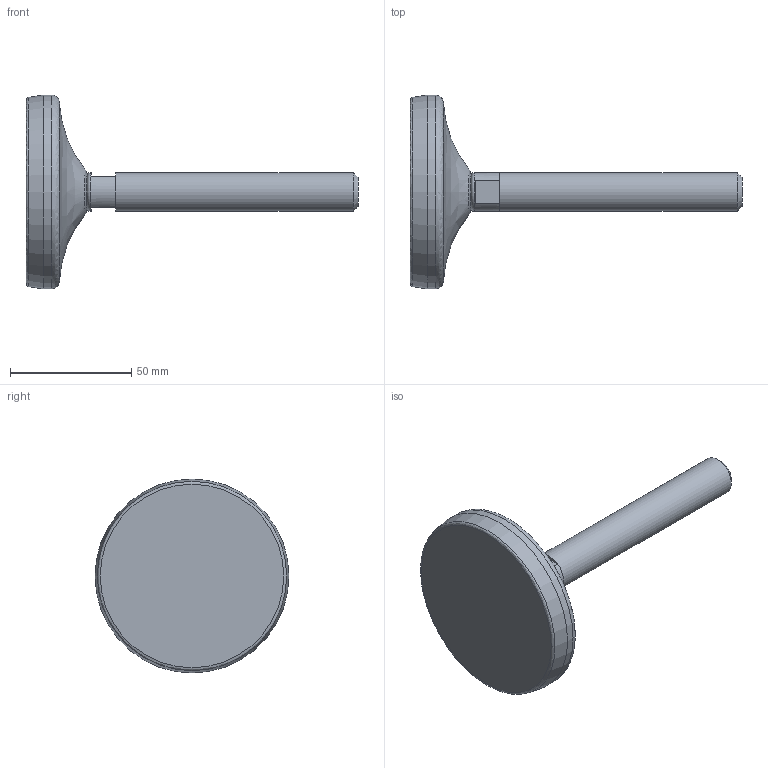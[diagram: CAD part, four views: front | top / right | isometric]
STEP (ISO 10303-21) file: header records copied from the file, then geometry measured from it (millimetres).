
FILE_DESCRIPTION(('STEP AP203'),'2;1');
FILE_NAME('25022.stp','2016-02-17T17:09:01',(''),(''),'2008.1.107','THINKDESIGN','');
FILE_SCHEMA(('CONFIG_CONTROL_DESIGN'));
Length unit declared in the file: millimetre
Bounding box: 137 x 80 x 80 mm (x, y, z)
Volume: 103269.7 mm3; surface area: 29455.3 mm2
Topology: 4 solids, 4 shells, 22 faces, 49 edges, 35 vertices
Faces by surface type: plane 12, bspline 7, cylinder 3
Full cylindrical faces by diameter (mm): 16 x2, 80 x1
Entity records: 1202 total; most frequent: CARTESIAN_POINT 602, DIRECTION 115, ORIENTED_EDGE 98, AXIS2_PLACEMENT_3D 51, EDGE_CURVE 49, CIRCLE 36, VERTEX_POINT 35, EDGE_LOOP 22
